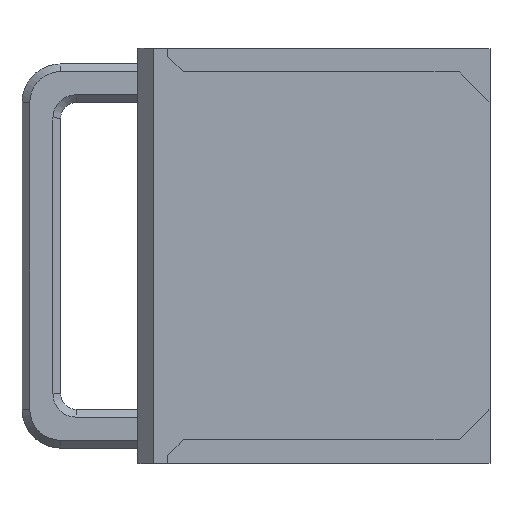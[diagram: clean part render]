
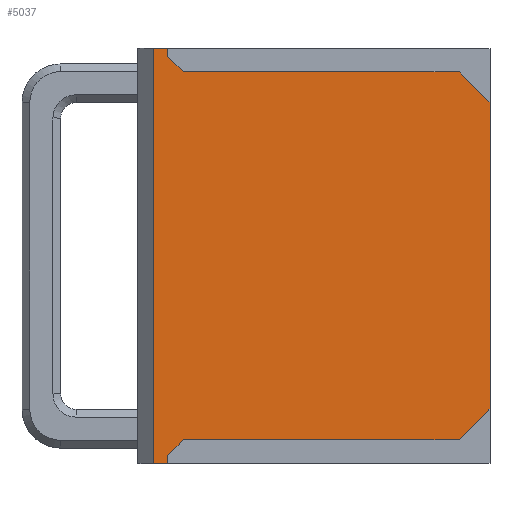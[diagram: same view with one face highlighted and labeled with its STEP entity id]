
A CAD part, top view. The second image highlights one B-rep face of the part: STEP entity #5037.
In plain terms, the highlighted planar face has unit normal (0, 0, 1).
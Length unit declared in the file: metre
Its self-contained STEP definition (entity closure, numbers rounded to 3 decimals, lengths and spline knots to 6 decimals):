
#653=ORIENTED_EDGE('',*,*,#1958,.T.);
#654=ORIENTED_EDGE('',*,*,#2194,.T.);
#655=ORIENTED_EDGE('',*,*,#2195,.F.);
#656=ORIENTED_EDGE('',*,*,#2196,.T.);
#657=ORIENTED_EDGE('',*,*,#2197,.T.);
#658=ORIENTED_EDGE('',*,*,#2198,.T.);
#659=ORIENTED_EDGE('',*,*,#2199,.T.);
#660=ORIENTED_EDGE('',*,*,#2200,.F.);
#661=ORIENTED_EDGE('',*,*,#2201,.T.);
#662=ORIENTED_EDGE('',*,*,#2202,.T.);
#663=ORIENTED_EDGE('',*,*,#2203,.T.);
#664=ORIENTED_EDGE('',*,*,#2204,.T.);
#1958=EDGE_CURVE('',#2739,#2738,#3252,.T.);
#2194=EDGE_CURVE('',#2738,#2960,#3388,.T.);
#2195=EDGE_CURVE('',#2961,#2960,#3389,.T.);
#2196=EDGE_CURVE('',#2961,#2962,#3390,.F.);
#2197=EDGE_CURVE('',#2962,#2963,#3391,.T.);
#2198=EDGE_CURVE('',#2963,#2964,#3392,.T.);
#2199=EDGE_CURVE('',#2964,#2965,#3393,.T.);
#2200=EDGE_CURVE('',#2966,#2965,#3394,.T.);
#2201=EDGE_CURVE('',#2966,#2967,#3395,.T.);
#2202=EDGE_CURVE('',#2967,#2968,#3396,.T.);
#2203=EDGE_CURVE('',#2968,#2969,#3397,.T.);
#2204=EDGE_CURVE('',#2969,#2739,#3398,.F.);
#2738=VERTEX_POINT('',#7118);
#2739=VERTEX_POINT('',#7120);
#2960=VERTEX_POINT('',#7648);
#2961=VERTEX_POINT('',#7650);
#2962=VERTEX_POINT('',#7652);
#2963=VERTEX_POINT('',#7654);
#2964=VERTEX_POINT('',#7656);
#2965=VERTEX_POINT('',#7658);
#2966=VERTEX_POINT('',#7660);
#2967=VERTEX_POINT('',#7662);
#2968=VERTEX_POINT('',#7664);
#2969=VERTEX_POINT('',#7666);
#3252=LINE('',#7119,#3778);
#3388=LINE('',#7647,#3914);
#3389=LINE('',#7649,#3915);
#3390=LINE('',#7651,#3916);
#3391=LINE('',#7653,#3917);
#3392=LINE('',#7655,#3918);
#3393=LINE('',#7657,#3919);
#3394=LINE('',#7659,#3920);
#3395=LINE('',#7661,#3921);
#3396=LINE('',#7663,#3922);
#3397=LINE('',#7665,#3923);
#3398=LINE('',#7667,#3924);
#3778=VECTOR('',#5740,1.);
#3914=VECTOR('',#6056,1.);
#3915=VECTOR('',#6057,1.);
#3916=VECTOR('',#6058,1.);
#3917=VECTOR('',#6059,1.);
#3918=VECTOR('',#6060,1.);
#3919=VECTOR('',#6061,1.);
#3920=VECTOR('',#6062,1.);
#3921=VECTOR('',#6063,1.);
#3922=VECTOR('',#6064,1.);
#3923=VECTOR('',#6065,1.);
#3924=VECTOR('',#6066,1.);
#4326=EDGE_LOOP('',(#653,#654,#655,#656,#657,#658,#659,#660,#661,#662,#663,
#664));
#4612=FACE_BOUND('',#4326,.T.);
#4887=PLANE('',#5399);
#5037=ADVANCED_FACE('',(#4612),#4887,.F.);
#5399=AXIS2_PLACEMENT_3D('',#7646,#6054,#6055);
#5740=DIRECTION('',(0.,1.,0.));
#6054=DIRECTION('',(0.,0.,-1.));
#6055=DIRECTION('',(-1.,0.,0.));
#6056=DIRECTION('',(-0.707,0.707,0.));
#6057=DIRECTION('',(1.,0.,0.));
#6058=DIRECTION('',(0.707,-0.707,0.));
#6059=DIRECTION('',(0.,1.,0.));
#6060=DIRECTION('',(-1.,0.,0.));
#6061=DIRECTION('',(0.,-1.,0.));
#6062=DIRECTION('',(-1.,0.,0.));
#6063=DIRECTION('',(0.,1.,0.));
#6064=DIRECTION('',(0.707,0.707,0.));
#6065=DIRECTION('',(1.,0.,0.));
#6066=DIRECTION('',(-0.707,-0.707,0.));
#7118=CARTESIAN_POINT('',(-0.21945,-0.014175,0.00825));
#7119=CARTESIAN_POINT('',(-0.21945,-0.010225,0.00825));
#7120=CARTESIAN_POINT('',(-0.21945,-0.053775,0.00825));
#7646=CARTESIAN_POINT('',(-0.918091,-0.010225,0.00825));
#7647=CARTESIAN_POINT('',(-0.21945,-0.014175,0.00825));
#7648=CARTESIAN_POINT('',(-0.22345,-0.010175,0.00825));
#7649=CARTESIAN_POINT('',(-0.918091,-0.010175,0.00825));
#7650=CARTESIAN_POINT('',(-0.25915,-0.010175,0.00825));
#7651=CARTESIAN_POINT('',(-0.590596,0.321271,0.00825));
#7652=CARTESIAN_POINT('',(-0.26115,-0.008175,0.00825));
#7653=CARTESIAN_POINT('',(-0.26115,-0.031975,0.00825));
#7654=CARTESIAN_POINT('',(-0.26115,-0.007125,0.00825));
#7655=CARTESIAN_POINT('',(-0.261148,-0.007125,0.00825));
#7656=CARTESIAN_POINT('',(-0.263,-0.007125,0.00825));
#7657=CARTESIAN_POINT('',(-0.263,-0.060825,0.00825));
#7658=CARTESIAN_POINT('',(-0.263,-0.060825,0.00825));
#7659=CARTESIAN_POINT('',(-0.261148,-0.060825,0.00825));
#7660=CARTESIAN_POINT('',(-0.26115,-0.060825,0.00825));
#7661=CARTESIAN_POINT('',(-0.26115,-0.035975,0.00825));
#7662=CARTESIAN_POINT('',(-0.26115,-0.059775,0.00825));
#7663=CARTESIAN_POINT('',(-0.564846,-0.363471,0.00825));
#7664=CARTESIAN_POINT('',(-0.25915,-0.057775,0.00825));
#7665=CARTESIAN_POINT('',(-0.918091,-0.057775,0.00825));
#7666=CARTESIAN_POINT('',(-0.22345,-0.057775,0.00825));
#7667=CARTESIAN_POINT('',(-0.22345,-0.057775,0.00825));
